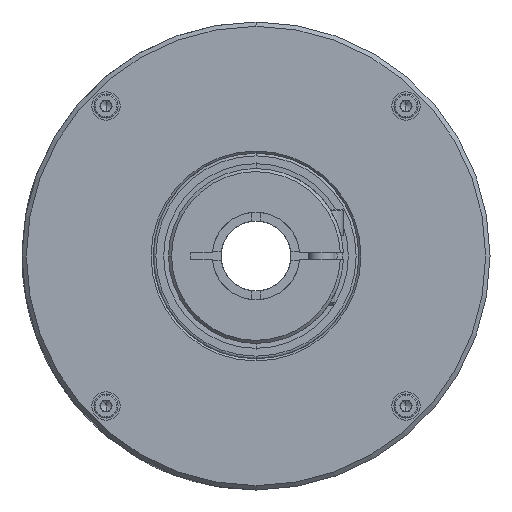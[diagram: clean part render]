
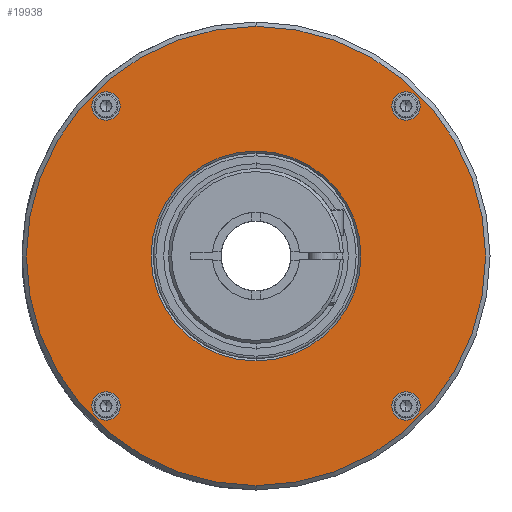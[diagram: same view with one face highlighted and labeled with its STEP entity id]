
A CAD part, left-side view. The second image highlights one B-rep face of the part: STEP entity #19938.
In plain terms, the highlighted planar face has unit normal (-1, 0, 0).
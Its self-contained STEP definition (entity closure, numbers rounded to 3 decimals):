
#468 = CARTESIAN_POINT ( 'NONE',  ( -30.65, 34.295, 34.295 ) ) ;
#919 = DIRECTION ( 'NONE',  ( -1., 0., 0. ) ) ;
#1135 = CARTESIAN_POINT ( 'NONE',  ( -30.65, 0., 0. ) ) ;
#1144 = EDGE_LOOP ( 'NONE', ( #15976, #11454 ) ) ;
#1369 = ORIENTED_EDGE ( 'NONE', *, *, #28453, .F. ) ;
#1700 = ORIENTED_EDGE ( 'NONE', *, *, #32237, .F. ) ;
#1785 = EDGE_LOOP ( 'NONE', ( #30514, #25257 ) ) ;
#2008 = EDGE_LOOP ( 'NONE', ( #23648, #1369 ) ) ;
#2036 = AXIS2_PLACEMENT_3D ( 'NONE', #20659, #30916, #2370 ) ;
#2370 = DIRECTION ( 'NONE',  ( 0., 0., 1. ) ) ;
#2527 = AXIS2_PLACEMENT_3D ( 'NONE', #15403, #23865, #28828 ) ;
#2764 = CARTESIAN_POINT ( 'NONE',  ( -30.65, 0., 0. ) ) ;
#2803 = DIRECTION ( 'NONE',  ( -1., 0., 0. ) ) ;
#3110 = AXIS2_PLACEMENT_3D ( 'NONE', #8677, #5325, #21449 ) ;
#3309 = VERTEX_POINT ( 'NONE', #10886 ) ;
#3424 = CARTESIAN_POINT ( 'NONE',  ( -30.65, -34.295, -31.045 ) ) ;
#3740 = CIRCLE ( 'NONE', #4316, 3.25 ) ;
#4316 = AXIS2_PLACEMENT_3D ( 'NONE', #14209, #24981, #24811 ) ;
#4398 = PLANE ( 'NONE',  #13221 ) ;
#4875 = EDGE_LOOP ( 'NONE', ( #1700, #22470 ) ) ;
#5325 = DIRECTION ( 'NONE',  ( -1., 0., 0. ) ) ;
#5627 = CARTESIAN_POINT ( 'NONE',  ( -30.65, 34.295, 31.045 ) ) ;
#5757 = DIRECTION ( 'NONE',  ( 1., 0., 0. ) ) ;
#6162 = AXIS2_PLACEMENT_3D ( 'NONE', #6213, #11211, #27284 ) ;
#6210 = FACE_BOUND ( 'NONE', #4875, .T. ) ;
#6213 = CARTESIAN_POINT ( 'NONE',  ( -30.65, 34.295, 34.295 ) ) ;
#7053 = FACE_BOUND ( 'NONE', #1144, .T. ) ;
#7429 = CIRCLE ( 'NONE', #27212, 24. ) ;
#7989 = EDGE_CURVE ( 'NONE', #30931, #32982, #21408, .T. ) ;
#8079 = DIRECTION ( 'NONE',  ( 0., 0., -1. ) ) ;
#8341 = EDGE_CURVE ( 'NONE', #30021, #20833, #10113, .T. ) ;
#8677 = CARTESIAN_POINT ( 'NONE',  ( -30.65, 34.295, -34.295 ) ) ;
#8753 = VERTEX_POINT ( 'NONE', #19347 ) ;
#8983 = CARTESIAN_POINT ( 'NONE',  ( -30.65, 0., -24. ) ) ;
#9432 = CARTESIAN_POINT ( 'NONE',  ( -30.65, -34.295, 34.295 ) ) ;
#9515 = VERTEX_POINT ( 'NONE', #23278 ) ;
#10113 = CIRCLE ( 'NONE', #11259, 24. ) ;
#10443 = AXIS2_PLACEMENT_3D ( 'NONE', #9432, #17735, #26052 ) ;
#10886 = CARTESIAN_POINT ( 'NONE',  ( -30.65, -34.295, 37.545 ) ) ;
#11211 = DIRECTION ( 'NONE',  ( -1., 0., 0. ) ) ;
#11259 = AXIS2_PLACEMENT_3D ( 'NONE', #2764, #5757, #8079 ) ;
#11454 = ORIENTED_EDGE ( 'NONE', *, *, #8341, .T. ) ;
#12123 = DIRECTION ( 'NONE',  ( -1., 0., 0. ) ) ;
#12205 = FACE_BOUND ( 'NONE', #2008, .T. ) ;
#12448 = EDGE_LOOP ( 'NONE', ( #33642, #22465 ) ) ;
#12566 = CARTESIAN_POINT ( 'NONE',  ( -30.65, 0., 0. ) ) ;
#13221 = AXIS2_PLACEMENT_3D ( 'NONE', #12566, #17017, #28816 ) ;
#14209 = CARTESIAN_POINT ( 'NONE',  ( -30.65, -34.295, 34.295 ) ) ;
#14260 = CARTESIAN_POINT ( 'NONE',  ( -30.65, -34.295, -37.545 ) ) ;
#14370 = FACE_OUTER_BOUND ( 'NONE', #12448, .T. ) ;
#14409 = CIRCLE ( 'NONE', #34174, 3.25 ) ;
#14459 = CIRCLE ( 'NONE', #2036, 3.25 ) ;
#14630 = DIRECTION ( 'NONE',  ( 1., 0., 0. ) ) ;
#14794 = CARTESIAN_POINT ( 'NONE',  ( -30.65, 0., 0. ) ) ;
#15120 = CARTESIAN_POINT ( 'NONE',  ( -30.65, 34.295, -31.045 ) ) ;
#15387 = VERTEX_POINT ( 'NONE', #3424 ) ;
#15403 = CARTESIAN_POINT ( 'NONE',  ( -30.65, 0., 0. ) ) ;
#15976 = ORIENTED_EDGE ( 'NONE', *, *, #16295, .T. ) ;
#16295 = EDGE_CURVE ( 'NONE', #20833, #30021, #7429, .T. ) ;
#17017 = DIRECTION ( 'NONE',  ( 1., 0., 0. ) ) ;
#17232 = CARTESIAN_POINT ( 'NONE',  ( -30.65, -34.295, -34.295 ) ) ;
#17444 = DIRECTION ( 'NONE',  ( 0., 0., -1. ) ) ;
#17735 = DIRECTION ( 'NONE',  ( -1., 0., 0. ) ) ;
#18404 = CIRCLE ( 'NONE', #3110, 3.25 ) ;
#19120 = VERTEX_POINT ( 'NONE', #30963 ) ;
#19347 = CARTESIAN_POINT ( 'NONE',  ( -30.65, 0., 52.5 ) ) ;
#19938 = ADVANCED_FACE ( 'NONE', ( #7053, #12205, #32419, #33784, #6210, #14370 ), #4398, .F. ) ;
#20255 = DIRECTION ( 'NONE',  ( 0., 0., 1. ) ) ;
#20659 = CARTESIAN_POINT ( 'NONE',  ( -30.65, 34.295, -34.295 ) ) ;
#20833 = VERTEX_POINT ( 'NONE', #32611 ) ;
#21134 = VERTEX_POINT ( 'NONE', #14260 ) ;
#21165 = EDGE_CURVE ( 'NONE', #15387, #21134, #14409, .T. ) ;
#21408 = CIRCLE ( 'NONE', #34953, 3.25 ) ;
#21448 = CIRCLE ( 'NONE', #6162, 3.25 ) ;
#21449 = DIRECTION ( 'NONE',  ( 0., 0., 1. ) ) ;
#21478 = EDGE_CURVE ( 'NONE', #3309, #9515, #25702, .T. ) ;
#21575 = DIRECTION ( 'NONE',  ( 0., 0., 1. ) ) ;
#22465 = ORIENTED_EDGE ( 'NONE', *, *, #32909, .T. ) ;
#22470 = ORIENTED_EDGE ( 'NONE', *, *, #33206, .F. ) ;
#23278 = CARTESIAN_POINT ( 'NONE',  ( -30.65, -34.295, 31.045 ) ) ;
#23520 = EDGE_CURVE ( 'NONE', #9515, #3309, #3740, .T. ) ;
#23598 = AXIS2_PLACEMENT_3D ( 'NONE', #17232, #919, #25542 ) ;
#23648 = ORIENTED_EDGE ( 'NONE', *, *, #7989, .F. ) ;
#23865 = DIRECTION ( 'NONE',  ( -1., 0., 0. ) ) ;
#24711 = CIRCLE ( 'NONE', #23598, 3.25 ) ;
#24811 = DIRECTION ( 'NONE',  ( 0., 0., 1. ) ) ;
#24829 = EDGE_CURVE ( 'NONE', #21134, #15387, #24711, .T. ) ;
#24921 = VERTEX_POINT ( 'NONE', #15120 ) ;
#24981 = DIRECTION ( 'NONE',  ( -1., 0., 0. ) ) ;
#25257 = ORIENTED_EDGE ( 'NONE', *, *, #24829, .F. ) ;
#25411 = DIRECTION ( 'NONE',  ( 0., 0., -1. ) ) ;
#25532 = VERTEX_POINT ( 'NONE', #33221 ) ;
#25542 = DIRECTION ( 'NONE',  ( 0., 0., 1. ) ) ;
#25702 = CIRCLE ( 'NONE', #10443, 3.25 ) ;
#25704 = CIRCLE ( 'NONE', #2527, 52.5 ) ;
#26052 = DIRECTION ( 'NONE',  ( 0., 0., 1. ) ) ;
#27212 = AXIS2_PLACEMENT_3D ( 'NONE', #1135, #14630, #25411 ) ;
#27284 = DIRECTION ( 'NONE',  ( 0., 0., 1. ) ) ;
#27907 = CARTESIAN_POINT ( 'NONE',  ( -30.65, 34.295, 37.545 ) ) ;
#28209 = CARTESIAN_POINT ( 'NONE',  ( -30.65, -34.295, -34.295 ) ) ;
#28453 = EDGE_CURVE ( 'NONE', #32982, #30931, #21448, .T. ) ;
#28526 = ORIENTED_EDGE ( 'NONE', *, *, #23520, .F. ) ;
#28816 = DIRECTION ( 'NONE',  ( 0., 0., -1. ) ) ;
#28828 = DIRECTION ( 'NONE',  ( 0., 0., -1. ) ) ;
#29153 = CIRCLE ( 'NONE', #34806, 52.5 ) ;
#29927 = EDGE_CURVE ( 'NONE', #25532, #8753, #25704, .T. ) ;
#30021 = VERTEX_POINT ( 'NONE', #8983 ) ;
#30514 = ORIENTED_EDGE ( 'NONE', *, *, #21165, .F. ) ;
#30874 = DIRECTION ( 'NONE',  ( -1., 0., 0. ) ) ;
#30916 = DIRECTION ( 'NONE',  ( -1., 0., 0. ) ) ;
#30931 = VERTEX_POINT ( 'NONE', #27907 ) ;
#30963 = CARTESIAN_POINT ( 'NONE',  ( -30.65, 34.295, -37.545 ) ) ;
#32237 = EDGE_CURVE ( 'NONE', #24921, #19120, #18404, .T. ) ;
#32419 = FACE_BOUND ( 'NONE', #33946, .T. ) ;
#32611 = CARTESIAN_POINT ( 'NONE',  ( -30.65, 0., 24. ) ) ;
#32909 = EDGE_CURVE ( 'NONE', #8753, #25532, #29153, .T. ) ;
#32982 = VERTEX_POINT ( 'NONE', #5627 ) ;
#33206 = EDGE_CURVE ( 'NONE', #19120, #24921, #14459, .T. ) ;
#33221 = CARTESIAN_POINT ( 'NONE',  ( -30.65, 0., -52.5 ) ) ;
#33642 = ORIENTED_EDGE ( 'NONE', *, *, #29927, .T. ) ;
#33784 = FACE_BOUND ( 'NONE', #1785, .T. ) ;
#33946 = EDGE_LOOP ( 'NONE', ( #34038, #28526 ) ) ;
#34038 = ORIENTED_EDGE ( 'NONE', *, *, #21478, .F. ) ;
#34174 = AXIS2_PLACEMENT_3D ( 'NONE', #28209, #12123, #20255 ) ;
#34806 = AXIS2_PLACEMENT_3D ( 'NONE', #14794, #30874, #17444 ) ;
#34953 = AXIS2_PLACEMENT_3D ( 'NONE', #468, #2803, #21575 ) ;
